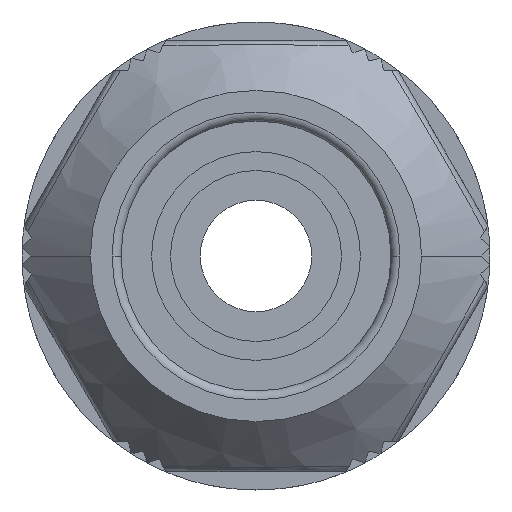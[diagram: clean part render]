
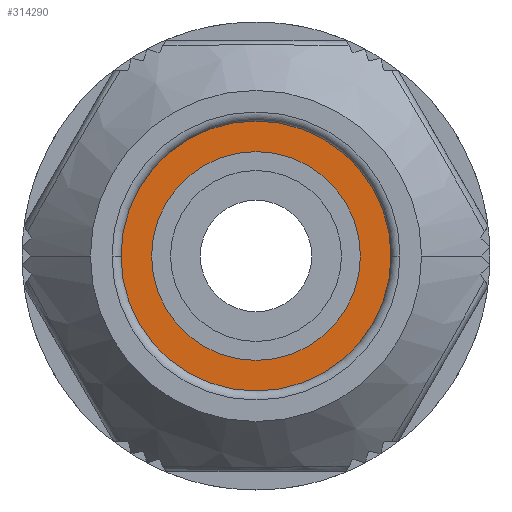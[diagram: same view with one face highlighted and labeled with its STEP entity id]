
A CAD part, left-side view. The second image highlights one B-rep face of the part: STEP entity #314290.
In plain terms, the highlighted planar face has unit normal (-1, 0, 0) as drawn and (1, 0, 0) by its records, which use the part's own axes.
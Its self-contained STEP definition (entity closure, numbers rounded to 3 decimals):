
#312890=CARTESIAN_POINT('',(74.601,32.887,0.));
#312900=VERTEX_POINT('',#312890);
#312930=CARTESIAN_POINT('',(74.601,40.387,0.));
#312940=DIRECTION('',(1.,0.,0.));
#312950=DIRECTION('',(0.,1.,0.));
#312960=AXIS2_PLACEMENT_3D('',#312930,#312940,#312950);
#312970=CIRCLE('',#312960,7.5);
#312980=CARTESIAN_POINT('',(74.601,47.887,0.));
#312990=VERTEX_POINT('',#312980);
#313000=EDGE_CURVE('',#312900,#312990,#312970,.T.);
#314040=CARTESIAN_POINT('',(74.601,44.137,0.));
#314050=DIRECTION('',(1.,0.,0.));
#314060=DIRECTION('',(0.,-1.,0.));
#314070=AXIS2_PLACEMENT_3D('',#314040,#314050,#314060);
#314080=PLANE('',#314070);
#314090=EDGE_CURVE('',#312990,#312900,#312970,.T.);
#314100=ORIENTED_EDGE('',*,*,#314090,.T.);
#314110=ORIENTED_EDGE('',*,*,#313000,.T.);
#314120=EDGE_LOOP('',(#314110,#314100));
#314130=FACE_OUTER_BOUND('',#314120,.T.);
#314140=CARTESIAN_POINT('',(74.601,40.387,0.));
#314150=DIRECTION('',(1.,0.,0.));
#314160=DIRECTION('',(0.,0.,-1.));
#314170=AXIS2_PLACEMENT_3D('',#314140,#314150,#314160);
#314180=CIRCLE('',#314170,5.8);
#314190=CARTESIAN_POINT('',(74.601,40.387,-5.8));
#314200=VERTEX_POINT('',#314190);
#314210=CARTESIAN_POINT('',(74.601,40.387,5.8));
#314220=VERTEX_POINT('',#314210);
#314230=EDGE_CURVE('',#314200,#314220,#314180,.T.);
#314240=ORIENTED_EDGE('',*,*,#314230,.F.);
#314250=EDGE_CURVE('',#314220,#314200,#314180,.T.);
#314260=ORIENTED_EDGE('',*,*,#314250,.F.);
#314270=EDGE_LOOP('',(#314260,#314240));
#314280=FACE_BOUND('',#314270,.T.);
#314290=ADVANCED_FACE('',(#314130,#314280),#314080,.T.);
